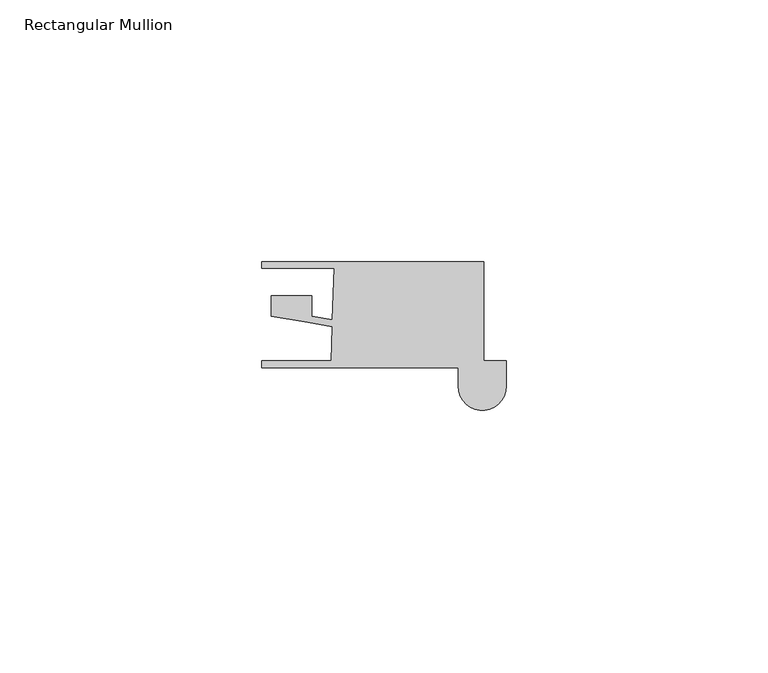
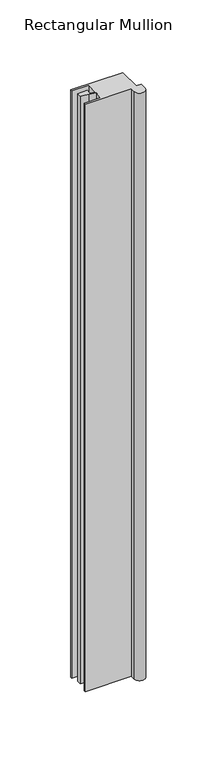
"""IFC4 building model written with IfcOpenShell, lengths in millimetres: member geometry, Rectangular Mullion : QuickPanel-Absolute_Multi-Angle-Outside-Corner-Trim-Left."""

from ifc_helpers import new_model, si_unit, point, frame, frame_2d, origin, place, context, project, spatial, polyline, circle_curve, trimmed, segment, composite_curve, outline, extrude, source, transform, mapped, element, save


def rectangular_mullion_64176b1e(model_context):
    return source(origin(), model_context, "Body", "SweptSolid", [
        extrude(outline(composite_curve([segment(polyline([(-46.7093657, -8.095605), (-46.7093657, -6.6935423), (-33.468453, -6.6935423), (-33.2416678, -0.1992641), (-38.4919487, 0.7008023), (-44.9272813, 1.8040245), (-44.9272813, 5.6493034), (-37.1825082, 5.6493034), (-37.1825082, 1.7648465), (-33.1969393, 1.0815922), (-32.8530122, 10.9303752), (-46.7093657, 10.9303752), (-46.7093657, 12.1803727), (-4.2600515, 12.1803727), (-4.2600515, -6.6995181), (0.0, -6.6995181), (0.0, -11.6334034)]), True, "CONTINUOUS"), segment(trimmed(circle_curve(frame_2d((-4.572, -11.6334034)), 4.572), [point((0.0, -11.6334034))], [point((-9.144, -11.6334034))], False, "CARTESIAN"), True, "CONTINUOUS"), segment(polyline([(-9.144, -11.6334034), (-9.144, -8.095605), (-46.7093657, -8.095605)]), True, "CONTINUOUS")], self_intersect=False)), frame((0.0, 0.0, -506.5685975), z_axis=(0.0, 0.0, 1.0), x_axis=(1.0, 0.0, 0.0)), (0.0, 0.0, 1.0), 506.5685975),
    ])


if __name__ == "__main__":
    model = new_model("IFC4")
    model_context = context("Model", 3, world=origin())
    ifc_project = project(units=[si_unit("LENGTHUNIT", "METRE", prefix="MILLI")], contexts=[model_context])
    site = spatial("IfcSite", under=ifc_project)
    building = spatial("IfcBuilding", under=site)
    placement = place(None, origin())
    rectangular_mullion_shape = rectangular_mullion_64176b1e(model_context)
    element("IfcMember", 1, ObjectType="Rectangular Mullion : QuickPanel-Absolute_Multi-Angle-Outside-Corner-Trim-Left", at=placement, inside=building, context=model_context, shape_type="MappedRepresentation", body=[
        mapped(rectangular_mullion_shape, transform((0.0, 0.0, 0.0), x_axis=(1.0, 0.0, 0.0), y_axis=(0.0, 1.0, 0.0), z_axis=(0.0, 0.0, 1.0))),
    ])
    save(model, "model.ifc")
